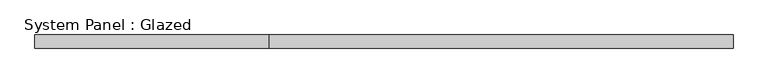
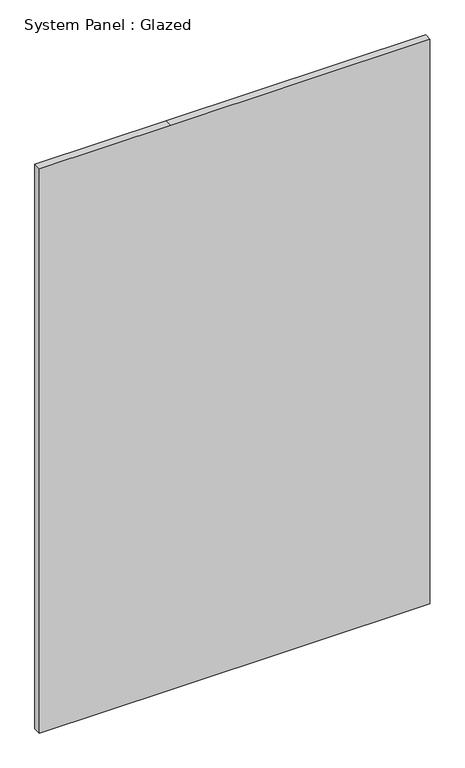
"""IFC4 building model written with IfcOpenShell, lengths in millimetres: plate geometry, System Panel : Glazed."""

from ifc_helpers import new_model, si_unit, frame, origin, place, context, project, spatial, polyline, outline, extrude, source, transform, mapped, element, save


def system_panel_glazed_a0fe1279(model_context):
    return source(origin(), model_context, "Body", "SweptSolid", [
        extrude(outline(polyline([(0.0, -643.17875), (0.0, -210.97875), (0.0, 643.17875), (1965.2, 643.17875), (1965.2, -210.97875), (1965.2, -643.17875), (0.0, -643.17875)])), frame((0.0, 24.5, 0.0), z_axis=(0.0, 1.0, 0.0), x_axis=(0.0, 0.0, 1.0)), (0.0, 0.0, 1.0), 25.0),
    ])


if __name__ == "__main__":
    model = new_model("IFC4")
    model_context = context("Model", 3, world=origin())
    ifc_project = project(units=[si_unit("LENGTHUNIT", "METRE", prefix="MILLI")], contexts=[model_context])
    site = spatial("IfcSite", under=ifc_project)
    building = spatial("IfcBuilding", under=site)
    placement = place(None, origin())
    system_panel_glazed_shape = system_panel_glazed_a0fe1279(model_context)
    element("IfcPlate", 1, ObjectType="System Panel : Glazed", at=placement, inside=building, context=model_context, shape_type="MappedRepresentation", body=[
        mapped(system_panel_glazed_shape, transform((0.0, 0.0, 0.0), x_axis=(1.0, 0.0, 0.0), y_axis=(0.0, 1.0, 0.0), z_axis=(0.0, 0.0, 1.0))),
    ])
    save(model, "model.ifc")
